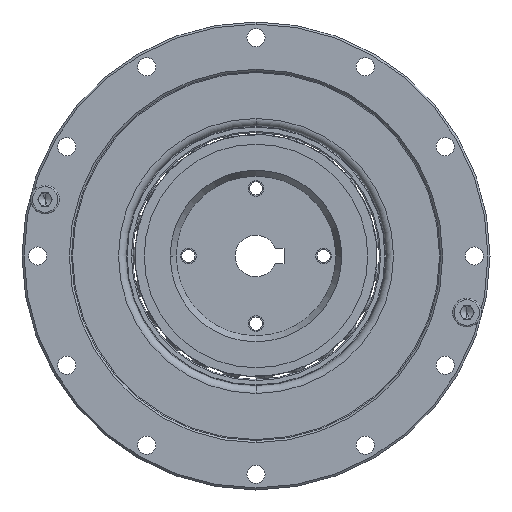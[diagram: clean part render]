
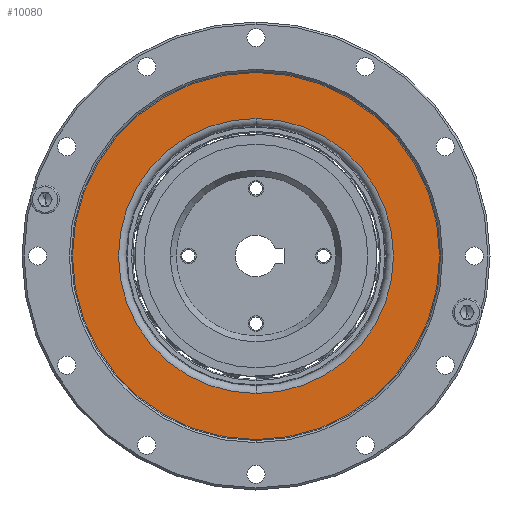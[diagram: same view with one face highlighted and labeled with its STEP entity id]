
A CAD part, left-side view. The second image highlights one B-rep face of the part: STEP entity #10080.
In plain terms, the highlighted planar face has unit normal (-1, 0, 0).
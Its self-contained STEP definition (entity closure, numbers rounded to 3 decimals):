
#8930=CARTESIAN_POINT('',(10.776,0.,0.));
#8931=DIRECTION('',(1.,0.,0.));
#8932=DIRECTION('',(0.,0.,-1.));
#8933=AXIS2_PLACEMENT_3D('',#8930,#8931,#8932);
#8935=CARTESIAN_POINT('',(10.776,0.,0.));
#8936=DIRECTION('',(1.,0.,0.));
#8937=DIRECTION('',(0.,0.,1.));
#8938=AXIS2_PLACEMENT_3D('',#8935,#8936,#8937);
#8940=CARTESIAN_POINT('',(10.776,0.,0.));
#8941=DIRECTION('',(-1.,0.,0.));
#8942=DIRECTION('',(0.,0.,1.));
#8943=AXIS2_PLACEMENT_3D('',#8940,#8941,#8942);
#8945=CARTESIAN_POINT('',(10.776,0.,0.));
#8946=DIRECTION('',(-1.,0.,0.));
#8947=DIRECTION('',(0.,0.,-1.));
#8948=AXIS2_PLACEMENT_3D('',#8945,#8946,#8947);
#9183=CARTESIAN_POINT('',(10.776,0.,26.45));
#9184=CARTESIAN_POINT('',(10.776,0.,-26.45));
#9185=VERTEX_POINT('',#9183);
#9186=VERTEX_POINT('',#9184);
#9187=CARTESIAN_POINT('',(10.776,0.,-35.3));
#9188=CARTESIAN_POINT('',(10.776,0.,35.3));
#9189=VERTEX_POINT('',#9187);
#9190=VERTEX_POINT('',#9188);
#10064=CARTESIAN_POINT('',(10.776,35.3,0.));
#10065=DIRECTION('',(1.,0.,0.));
#10066=DIRECTION('',(0.,0.,-1.));
#10067=AXIS2_PLACEMENT_3D('',#10064,#10065,#10066);
#10068=PLANE('',#10067);
#10070=ORIENTED_EDGE('',*,*,#10069,.T.);
#10072=ORIENTED_EDGE('',*,*,#10071,.T.);
#10073=EDGE_LOOP('',(#10070,#10072));
#10074=FACE_OUTER_BOUND('',#10073,.F.);
#10075=ORIENTED_EDGE('',*,*,#10054,.T.);
#10077=ORIENTED_EDGE('',*,*,#10076,.T.);
#10078=EDGE_LOOP('',(#10075,#10077));
#10079=FACE_BOUND('',#10078,.F.);
#8934=CIRCLE('',#8933,35.3);
#8939=CIRCLE('',#8938,35.3);
#8944=CIRCLE('',#8943,26.45);
#8949=CIRCLE('',#8948,26.45);
#10054=EDGE_CURVE('',#9185,#9186,#8944,.T.);
#10069=EDGE_CURVE('',#9189,#9190,#8934,.T.);
#10071=EDGE_CURVE('',#9190,#9189,#8939,.T.);
#10076=EDGE_CURVE('',#9186,#9185,#8949,.T.);
#10080=ADVANCED_FACE('',(#10074,#10079),#10068,.F.);
